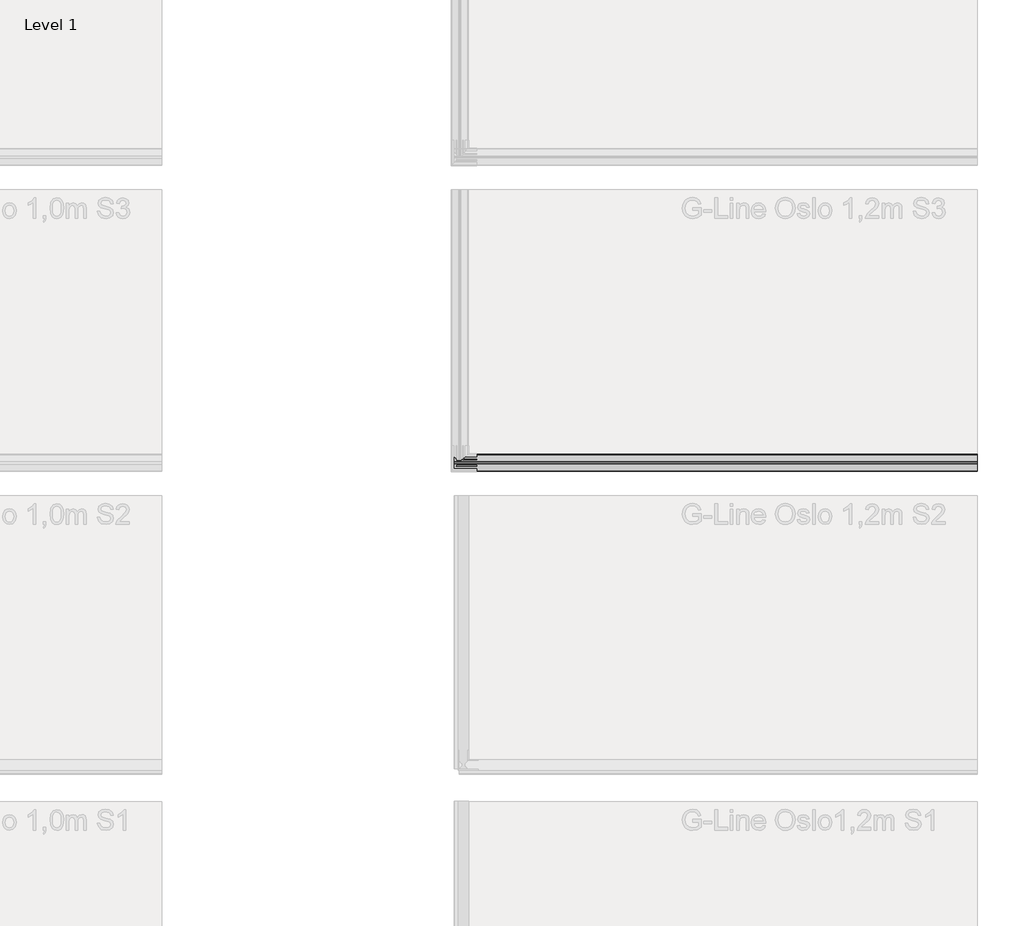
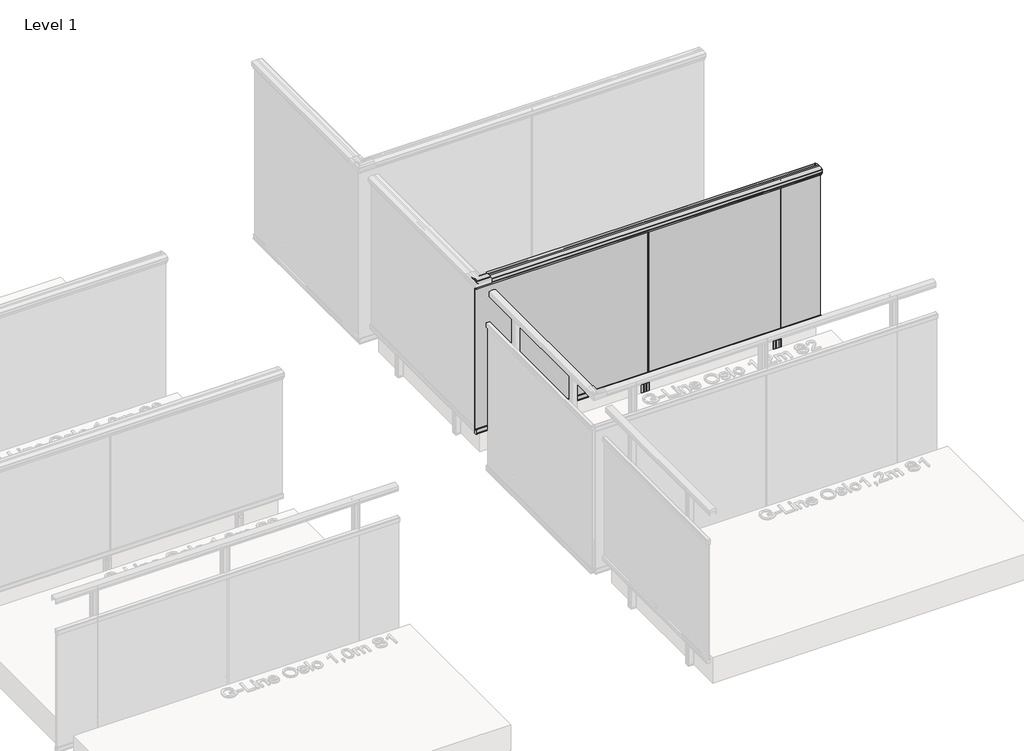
# One storey, part 35 of 66: 1 railing.
"""IFC4 building model written with IfcOpenShell, lengths in millimetres."""

from ifc_helpers import new_model, si_unit, point, frame, frame_2d, origin, origin_with_axes, place, context, project, spatial, polyline, circle_curve, trimmed, segment, composite_curve, outline, extrude, element, save

model = new_model("IFC4")

# Units and contexts
model_context = context("Model", 3, world=origin())
ifc_project = project(units=[si_unit("LENGTHUNIT", "METRE", prefix="MILLI")], contexts=[model_context])

# Site, building, storey
site = spatial("IfcSite", under=ifc_project)
building = spatial("IfcBuilding", under=site)
storey = spatial("IfcBuildingStorey", under=building, Name="Level 1", Elevation=0.0)

# Railing
placement = place(None, origin())
element("IfcRailing", 1, ObjectType="G-Line Oslo 1,2m  S3", at=placement, inside=storey, context=model_context, shape_type="SweptSolid", body=[
    extrude(outline(composite_curve([segment(polyline([(15632.289348, 1170.6825033), (15631.6638671, 1170.0570224), (15632.2491556, 1169.4717338), (15632.289348, 1165.5021186)]), True, "CONTINUOUS"), segment(trimmed(circle_curve(frame_2d((15631.789348, 1165.5021186)), 0.5), [point((15632.289348, 1165.5021186))], [point((15631.789348, 1165.0021186))], False, "CARTESIAN"), True, "CONTINUOUS"), segment(polyline([(15631.789348, 1165.0021186), (15630.789348, 1165.0021186), (15630.789348, 1179.5021186)]), True, "CONTINUOUS"), segment(trimmed(circle_curve(frame_2d((15630.289348, 1179.5021186)), 0.5), [point((15630.789348, 1179.5021186))], [point((15630.289348, 1180.0021186))], True, "CARTESIAN"), True, "CONTINUOUS"), segment(polyline([(15630.289348, 1180.0021186), (15552.289348, 1180.0021186)]), True, "CONTINUOUS"), segment(trimmed(circle_curve(frame_2d((15552.289348, 1179.5021186)), 0.5), [point((15552.289348, 1180.0021186))], [point((15551.789348, 1179.5021186))], True, "CARTESIAN"), True, "CONTINUOUS"), segment(polyline([(15551.789348, 1179.5021186), (15551.789348, 1165.0021186), (15550.789348, 1165.0021186)]), True, "CONTINUOUS"), segment(trimmed(circle_curve(frame_2d((15550.789348, 1165.5021186)), 0.5), [point((15550.789348, 1165.0021186))], [point((15550.289348, 1165.5021186))], False, "CARTESIAN"), True, "CONTINUOUS"), segment(polyline([(15550.289348, 1165.5021186), (15550.289348, 1169.2627449), (15550.9443234, 1169.9177203), (15550.3295404, 1170.5325033), (15550.289348, 1191.2139911)]), True, "CONTINUOUS"), segment(trimmed(circle_curve(frame_2d((15553.289348, 1191.2139911)), 3.0), [point((15550.289348, 1191.2139911))], [point((15552.2228567, 1194.0180233))], False, "CARTESIAN"), True, "CONTINUOUS"), segment(trimmed(circle_curve(frame_2d((15584.789348, 1108.3938053)), 91.6083133), [point((15552.2228567, 1194.0180233))], [point((15584.789348, 1200.0021186))], False, "CARTESIAN"), True, "CONTINUOUS"), segment(polyline([(15584.789348, 1200.0021186), (15597.789348, 1200.0021186)]), True, "CONTINUOUS"), segment(trimmed(circle_curve(frame_2d((15597.789348, 1108.3938053)), 91.6083133), [point((15597.789348, 1200.0021186))], [point((15630.3558394, 1194.0180233))], False, "CARTESIAN"), True, "CONTINUOUS"), segment(trimmed(circle_curve(frame_2d((15629.289348, 1191.2139911)), 3.0), [point((15630.3558394, 1194.0180233))], [point((15632.289348, 1191.2139911))], False, "CARTESIAN"), True, "CONTINUOUS"), segment(polyline([(15632.289348, 1191.2139911), (15632.289348, 1170.6825033)]), True, "CONTINUOUS")], self_intersect=False)), frame((8439.0181297, 0.0, 0.0), z_axis=(1.0, 0.0, 0.0), x_axis=(0.0, 1.0, 0.0)), (0.0, 0.0, 1.0), 2565.0366025),
    extrude(outline(composite_curve([segment(polyline([(15582.0487504, 1141.0), (15572.5287505, 1141.0), (15565.2886441, 1141.0)]), True, "CONTINUOUS"), segment(trimmed(circle_curve(frame_2d((15565.2886441, 1141.5)), 0.5), [point((15565.2886441, 1141.0))], [point((15564.7886441, 1141.5))], False, "CARTESIAN"), True, "CONTINUOUS"), segment(polyline([(15564.7886441, 1141.5), (15564.7886441, 1169.4642612), (15565.2520415, 1170.5008136), (15564.8288365, 1171.3802866), (15564.7886441, 1176.5)]), True, "CONTINUOUS"), segment(trimmed(circle_curve(frame_2d((15566.2886441, 1176.5)), 1.5), [point((15564.7886441, 1176.5))], [point((15566.2886441, 1178.0))], False, "CARTESIAN"), True, "CONTINUOUS"), segment(polyline([(15566.2886441, 1178.0), (15588.2886441, 1178.0)]), True, "CONTINUOUS"), segment(trimmed(circle_curve(frame_2d((15588.2886441, 1176.5)), 1.5), [point((15588.2886441, 1178.0))], [point((15589.7886441, 1176.5))], False, "CARTESIAN"), True, "CONTINUOUS"), segment(polyline([(15589.7886441, 1176.5), (15589.7886441, 1171.5302866), (15589.3252466, 1170.5701988), (15589.7484517, 1169.6142612), (15589.7484517, 1141.6964102)]), True, "CONTINUOUS"), segment(trimmed(circle_curve(frame_2d((15589.2886441, 1141.5)), 0.5), [point((15589.7484517, 1141.6964102))], [point((15589.2886441, 1141.0))], False, "CARTESIAN"), True, "CONTINUOUS"), segment(polyline([(15589.2886441, 1141.0), (15582.0487504, 1141.0)]), True, "CONTINUOUS")], self_intersect=False)), frame((8439.0181297, 0.0, 0.0), z_axis=(1.0, 0.0, 0.0), x_axis=(0.0, 1.0, 0.0)), (0.0, 0.0, 1.0), 2565.0366025),
    extrude(outline(polyline([(11004.0547322, 15581.6686441), (11004.0547322, 15572.9086441), (8439.0181297, 15572.9086441), (8439.0181297, 15581.6686441), (11004.0547322, 15581.6686441)])), frame((0.0, 0.0, 28.0), z_axis=(0.0, 0.0, 1.0), x_axis=(1.0, 0.0, 0.0)), (0.0, 0.0, 1.0), 1152.0),
    extrude(outline(composite_curve([segment(polyline([(15572.5285377, 37.0), (15582.0485377, 37.0), (15589.2886441, 37.0)]), True, "CONTINUOUS"), segment(trimmed(circle_curve(frame_2d((15589.2886441, 36.5)), 0.5), [point((15589.2886441, 37.0))], [point((15589.7886441, 36.5))], False, "CARTESIAN"), True, "CONTINUOUS"), segment(polyline([(15589.7886441, 36.5), (15589.7886441, 8.5357388), (15589.3252466, 7.4991864), (15589.7484517, 6.6197134), (15589.7886441, 1.5)]), True, "CONTINUOUS"), segment(trimmed(circle_curve(frame_2d((15588.2886441, 1.5)), 1.5), [point((15589.7886441, 1.5))], [point((15588.2886441, 0.0))], False, "CARTESIAN"), True, "CONTINUOUS"), segment(polyline([(15588.2886441, 0.0), (15566.2886441, 0.0)]), True, "CONTINUOUS"), segment(trimmed(circle_curve(frame_2d((15566.2886441, 1.5)), 1.5), [point((15566.2886441, 0.0))], [point((15564.7886441, 1.5))], False, "CARTESIAN"), True, "CONTINUOUS"), segment(polyline([(15564.7886441, 1.5), (15564.7886441, 6.4697134), (15565.2520415, 7.4298012), (15564.8288365, 8.3857388), (15564.8288365, 36.3035898)]), True, "CONTINUOUS"), segment(trimmed(circle_curve(frame_2d((15565.2886441, 36.5)), 0.5), [point((15564.8288365, 36.3035898))], [point((15565.2886441, 37.0))], False, "CARTESIAN"), True, "CONTINUOUS"), segment(polyline([(15565.2886441, 37.0), (15572.5285377, 37.0)]), True, "CONTINUOUS")], self_intersect=False)), frame((8439.0181297, 0.0, 0.0), z_axis=(1.0, 0.0, 0.0), x_axis=(0.0, 1.0, 0.0)), (0.0, 0.0, 1.0), 2565.0366025),
    extrude(outline(polyline([(9725.536431, 15570.2118492), (9717.536431, 15570.2118492), (9717.536431, 15578.2118492), (9725.536431, 15578.2118492), (9725.536431, 15570.2118492)])), origin_with_axes(), (0.0, 0.0, 1.0), 1141.0),
    extrude(outline(composite_curve([segment(polyline([(9720.7336439, 15630.2886441), (9721.536431, 15629.4858571), (9722.3042681, 15630.2536942), (9739.362518, 15630.2886441)]), True, "CONTINUOUS"), segment(trimmed(circle_curve(frame_2d((9739.3625179, 15628.114731)), 2.173913), [point((9739.362518, 15630.2886441))], [point((9741.536431, 15628.114731))], False, "CARTESIAN"), True, "CONTINUOUS"), segment(polyline([(9741.536431, 15628.114731), (9741.536431, 15592.4625571)]), True, "CONTINUOUS"), segment(trimmed(circle_curve(frame_2d((9739.3625179, 15592.4625571)), 2.173913), [point((9741.536431, 15592.4625571))], [point((9739.3625179, 15590.2886441))], False, "CARTESIAN"), True, "CONTINUOUS"), segment(polyline([(9739.3625179, 15590.2886441), (9722.3042681, 15590.323594), (9721.536431, 15591.0914311), (9720.7685938, 15590.323594), (9703.710344, 15590.2886441)]), True, "CONTINUOUS"), segment(trimmed(circle_curve(frame_2d((9703.710344, 15592.4625571)), 2.173913), [point((9703.710344, 15590.2886441))], [point((9701.536431, 15592.4625571))], False, "CARTESIAN"), True, "CONTINUOUS"), segment(polyline([(9701.536431, 15592.4625571), (9701.536431, 15628.114731)]), True, "CONTINUOUS"), segment(trimmed(circle_curve(frame_2d((9703.710344, 15628.114731)), 2.173913), [point((9701.536431, 15628.114731))], [point((9703.710344, 15630.2886441))], False, "CARTESIAN"), True, "CONTINUOUS"), segment(polyline([(9703.710344, 15630.2886441), (9720.7336439, 15630.2886441)]), True, "CONTINUOUS")], self_intersect=False)), frame((0.0, 0.0, -200.0), z_axis=(0.0, 0.0, 1.0), x_axis=(1.0, 0.0, 0.0)), (0.0, 0.0, 1.0), 10.0),
    extrude(outline(composite_curve([segment(trimmed(circle_curve(frame_2d((0.0, -12.0)), 12.0), [point((0.0, -23.9999999))], [point((0.0, 0.0))], False, "CARTESIAN"), True, "CONTINUOUS"), segment(trimmed(circle_curve(frame_2d((0.0, -12.0)), 12.0), [point((0.0, 0.0))], [point((0.0, -23.9999999))], False, "CARTESIAN"), True, "CONTINUOUS")], self_intersect=False)), frame((9733.5467078, 15587.2248149, -151.0), z_axis=(-0.0004029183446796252, 0.9999999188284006, 0.0), x_axis=(0.0, 0.0, 1.0)), (0.0, 0.0, 1.0), 3.0757477),
    extrude(outline(composite_curve([segment(trimmed(circle_curve(frame_2d((0.0, -12.0)), 12.0), [point((0.0, -23.9999999))], [point((0.0, 0.0))], False, "CARTESIAN"), True, "CONTINUOUS"), segment(trimmed(circle_curve(frame_2d((0.0, -12.0)), 12.0), [point((0.0, 0.0))], [point((0.0, -23.9999999))], False, "CARTESIAN"), True, "CONTINUOUS")], self_intersect=False)), frame((9733.5467078, 15587.2248149, -50.0), z_axis=(-0.0004029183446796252, 0.9999999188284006, 0.0), x_axis=(0.0, 0.0, 1.0)), (0.0, 0.0, 1.0), 3.0757477),
    extrude(outline(composite_curve([segment(polyline([(9741.536431, 15628.114731), (9741.536431, 15592.4625571)]), True, "CONTINUOUS"), segment(trimmed(circle_curve(frame_2d((9739.3625179, 15592.4625571)), 2.173913), [point((9741.536431, 15592.4625571))], [point((9739.3625179, 15590.2886441))], False, "CARTESIAN"), True, "CONTINUOUS"), segment(polyline([(9739.3625179, 15590.2886441), (9722.3042681, 15590.323594), (9721.536431, 15591.0914311), (9720.7685938, 15590.323594), (9703.710344, 15590.2886441)]), True, "CONTINUOUS"), segment(trimmed(circle_curve(frame_2d((9703.710344, 15592.4625571)), 2.173913), [point((9703.710344, 15590.2886441))], [point((9701.536431, 15592.4625571))], False, "CARTESIAN"), True, "CONTINUOUS"), segment(polyline([(9701.536431, 15592.4625571), (9701.536431, 15628.114731)]), True, "CONTINUOUS"), segment(trimmed(circle_curve(frame_2d((9703.710344, 15628.114731)), 2.173913), [point((9701.536431, 15628.114731))], [point((9703.710344, 15630.2886441))], False, "CARTESIAN"), True, "CONTINUOUS"), segment(polyline([(9703.710344, 15630.2886441), (9720.6381591, 15630.2886441), (9721.4059962, 15629.8856898), (9722.3042681, 15630.2536942), (9739.3625179, 15630.2886441)]), True, "CONTINUOUS"), segment(trimmed(circle_curve(frame_2d((9739.3625179, 15628.114731)), 2.173913), [point((9739.3625179, 15630.2886441))], [point((9741.536431, 15628.114731))], False, "CARTESIAN"), True, "CONTINUOUS")], self_intersect=False), holes=[composite_curve([segment(trimmed(circle_curve(frame_2d((9737.1886049, 15625.940818)), 0.8695652), [point((9738.0581701, 15625.940818))], [point((9737.1886049, 15626.8103832))], True, "CARTESIAN"), True, "CONTINUOUS"), segment(polyline([(9737.1886049, 15626.8103832), (9705.8842571, 15626.8103832)]), True, "CONTINUOUS"), segment(trimmed(circle_curve(frame_2d((9705.8842571, 15625.940818)), 0.8695652), [point((9705.8842571, 15626.8103832))], [point((9705.0146918, 15625.940818))], True, "CARTESIAN"), True, "CONTINUOUS"), segment(polyline([(9705.0146918, 15625.940818), (9705.0146918, 15594.6364702)]), True, "CONTINUOUS"), segment(trimmed(circle_curve(frame_2d((9705.8842571, 15594.6364702)), 0.8695652), [point((9705.0146918, 15594.6364702))], [point((9705.8842571, 15593.766905))], True, "CARTESIAN"), True, "CONTINUOUS"), segment(polyline([(9705.8842571, 15593.766905), (9737.1886049, 15593.766905)]), True, "CONTINUOUS"), segment(trimmed(circle_curve(frame_2d((9737.1886049, 15594.6364702)), 0.8695652), [point((9737.1886049, 15593.766905))], [point((9738.0581701, 15594.6364702))], True, "CARTESIAN"), True, "CONTINUOUS"), segment(polyline([(9738.0581701, 15594.6364702), (9738.0581701, 15625.940818)]), True, "CONTINUOUS")], self_intersect=False)]), frame((0.0, 0.0, -190.0), z_axis=(0.0, 0.0, 1.0), x_axis=(1.0, 0.0, 0.0)), (0.0, 0.0, 1.0), 1371.0),
    extrude(outline(composite_curve([segment(polyline([(8738.2153427, 15630.2886441), (8739.0181297, 15629.4858571), (8739.7859668, 15630.2536942), (8756.8442167, 15630.2886441)]), True, "CONTINUOUS"), segment(trimmed(circle_curve(frame_2d((8756.8442167, 15628.114731)), 2.173913), [point((8756.8442167, 15630.2886441))], [point((8759.0181297, 15628.114731))], False, "CARTESIAN"), True, "CONTINUOUS"), segment(polyline([(8759.0181297, 15628.114731), (8759.0181297, 15592.4625571)]), True, "CONTINUOUS"), segment(trimmed(circle_curve(frame_2d((8756.8442167, 15592.4625571)), 2.173913), [point((8759.0181297, 15592.4625571))], [point((8756.8442167, 15590.2886441))], False, "CARTESIAN"), True, "CONTINUOUS"), segment(polyline([(8756.8442167, 15590.2886441), (8739.7859668, 15590.323594), (8739.0181297, 15591.0914311), (8738.2502926, 15590.323594), (8721.1920427, 15590.2886441)]), True, "CONTINUOUS"), segment(trimmed(circle_curve(frame_2d((8721.1920427, 15592.4625571)), 2.173913), [point((8721.1920427, 15590.2886441))], [point((8719.0181297, 15592.4625571))], False, "CARTESIAN"), True, "CONTINUOUS"), segment(polyline([(8719.0181297, 15592.4625571), (8719.0181297, 15628.114731)]), True, "CONTINUOUS"), segment(trimmed(circle_curve(frame_2d((8721.1920427, 15628.114731)), 2.173913), [point((8719.0181297, 15628.114731))], [point((8721.1920427, 15630.2886441))], False, "CARTESIAN"), True, "CONTINUOUS"), segment(polyline([(8721.1920427, 15630.2886441), (8738.2153427, 15630.2886441)]), True, "CONTINUOUS")], self_intersect=False)), frame((0.0, 0.0, -200.0), z_axis=(0.0, 0.0, 1.0), x_axis=(1.0, 0.0, 0.0)), (0.0, 0.0, 1.0), 10.0),
    extrude(outline(composite_curve([segment(trimmed(circle_curve(frame_2d((0.0, -12.0000001)), 12.0), [point((0.0, -24.0))], [point((0.0, 0.0))], False, "CARTESIAN"), True, "CONTINUOUS"), segment(trimmed(circle_curve(frame_2d((0.0, -12.0000001)), 12.0), [point((0.0, 0.0))], [point((0.0, -24.0))], False, "CARTESIAN"), True, "CONTINUOUS")], self_intersect=False)), frame((8751.0284066, 15587.2248149, -151.0), z_axis=(-0.0004029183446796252, 0.9999999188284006, 0.0), x_axis=(0.0, 0.0, 1.0)), (0.0, 0.0, 1.0), 3.0757477),
    extrude(outline(composite_curve([segment(trimmed(circle_curve(frame_2d((0.0, -12.0000001)), 12.0), [point((0.0, -24.0))], [point((0.0, 0.0))], False, "CARTESIAN"), True, "CONTINUOUS"), segment(trimmed(circle_curve(frame_2d((0.0, -12.0000001)), 12.0), [point((0.0, 0.0))], [point((0.0, -24.0))], False, "CARTESIAN"), True, "CONTINUOUS")], self_intersect=False)), frame((8751.0284066, 15587.2248149, -50.0), z_axis=(-0.0004029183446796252, 0.9999999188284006, 0.0), x_axis=(0.0, 0.0, 1.0)), (0.0, 0.0, 1.0), 3.0757477),
    extrude(outline(composite_curve([segment(polyline([(8759.0181297, 15628.114731), (8759.0181297, 15592.4625571)]), True, "CONTINUOUS"), segment(trimmed(circle_curve(frame_2d((8756.8442167, 15592.4625571)), 2.173913), [point((8759.0181297, 15592.4625571))], [point((8756.8442167, 15590.2886441))], False, "CARTESIAN"), True, "CONTINUOUS"), segment(polyline([(8756.8442167, 15590.2886441), (8739.7859668, 15590.323594), (8739.0181297, 15591.0914311), (8738.2502926, 15590.323594), (8721.1920427, 15590.2886441)]), True, "CONTINUOUS"), segment(trimmed(circle_curve(frame_2d((8721.1920427, 15592.4625571)), 2.173913), [point((8721.1920427, 15590.2886441))], [point((8719.0181297, 15592.4625571))], False, "CARTESIAN"), True, "CONTINUOUS"), segment(polyline([(8719.0181297, 15592.4625571), (8719.0181297, 15628.114731)]), True, "CONTINUOUS"), segment(trimmed(circle_curve(frame_2d((8721.1920427, 15628.114731)), 2.173913), [point((8719.0181297, 15628.114731))], [point((8721.1920427, 15630.2886441))], False, "CARTESIAN"), True, "CONTINUOUS"), segment(polyline([(8721.1920427, 15630.2886441), (8738.1198578, 15630.2886441), (8738.8876949, 15629.8856898), (8739.7859668, 15630.2536942), (8756.8442167, 15630.2886441)]), True, "CONTINUOUS"), segment(trimmed(circle_curve(frame_2d((8756.8442167, 15628.114731)), 2.173913), [point((8756.8442167, 15630.2886441))], [point((8759.0181297, 15628.114731))], False, "CARTESIAN"), True, "CONTINUOUS")], self_intersect=False), holes=[composite_curve([segment(trimmed(circle_curve(frame_2d((8754.6703036, 15625.940818)), 0.8695652), [point((8755.5398688, 15625.940818))], [point((8754.6703036, 15626.8103832))], True, "CARTESIAN"), True, "CONTINUOUS"), segment(polyline([(8754.6703036, 15626.8103832), (8723.3659558, 15626.8103832)]), True, "CONTINUOUS"), segment(trimmed(circle_curve(frame_2d((8723.3659558, 15625.940818)), 0.8695652), [point((8723.3659558, 15626.8103832))], [point((8722.4963906, 15625.940818))], True, "CARTESIAN"), True, "CONTINUOUS"), segment(polyline([(8722.4963906, 15625.940818), (8722.4963906, 15594.6364702)]), True, "CONTINUOUS"), segment(trimmed(circle_curve(frame_2d((8723.3659558, 15594.6364702)), 0.8695652), [point((8722.4963906, 15594.6364702))], [point((8723.3659558, 15593.766905))], True, "CARTESIAN"), True, "CONTINUOUS"), segment(polyline([(8723.3659558, 15593.766905), (8754.6703036, 15593.766905)]), True, "CONTINUOUS"), segment(trimmed(circle_curve(frame_2d((8754.6703036, 15594.6364702)), 0.8695652), [point((8754.6703036, 15593.766905))], [point((8755.5398688, 15594.6364702))], True, "CARTESIAN"), True, "CONTINUOUS"), segment(polyline([(8755.5398688, 15594.6364702), (8755.5398688, 15625.940818)]), True, "CONTINUOUS")], self_intersect=False)]), frame((0.0, 0.0, -190.0), z_axis=(0.0, 0.0, 1.0), x_axis=(1.0, 0.0, 0.0)), (0.0, 0.0, 1.0), 1371.0),
    extrude(outline(composite_curve([segment(polyline([(10703.2519452, 15630.2886441), (10704.0547322, 15629.4858571), (10704.8225694, 15630.2536942), (10721.8808193, 15630.2886441)]), True, "CONTINUOUS"), segment(trimmed(circle_curve(frame_2d((10721.8808192, 15628.114731)), 2.173913), [point((10721.8808193, 15630.2886441))], [point((10724.0547322, 15628.114731))], False, "CARTESIAN"), True, "CONTINUOUS"), segment(polyline([(10724.0547322, 15628.114731), (10724.0547322, 15592.4625571)]), True, "CONTINUOUS"), segment(trimmed(circle_curve(frame_2d((10721.8808192, 15592.4625571)), 2.173913), [point((10724.0547322, 15592.4625571))], [point((10721.8808192, 15590.2886441))], False, "CARTESIAN"), True, "CONTINUOUS"), segment(polyline([(10721.8808192, 15590.2886441), (10704.8225694, 15590.323594), (10704.0547322, 15591.0914311), (10703.2868951, 15590.323594), (10686.2286453, 15590.2886441)]), True, "CONTINUOUS"), segment(trimmed(circle_curve(frame_2d((10686.2286453, 15592.4625571)), 2.173913), [point((10686.2286453, 15590.2886441))], [point((10684.0547322, 15592.4625571))], False, "CARTESIAN"), True, "CONTINUOUS"), segment(polyline([(10684.0547322, 15592.4625571), (10684.0547322, 15628.114731)]), True, "CONTINUOUS"), segment(trimmed(circle_curve(frame_2d((10686.2286453, 15628.114731)), 2.173913), [point((10684.0547322, 15628.114731))], [point((10686.2286453, 15630.2886441))], False, "CARTESIAN"), True, "CONTINUOUS"), segment(polyline([(10686.2286453, 15630.2886441), (10703.2519452, 15630.2886441)]), True, "CONTINUOUS")], self_intersect=False)), frame((0.0, 0.0, -200.0), z_axis=(0.0, 0.0, 1.0), x_axis=(1.0, 0.0, 0.0)), (0.0, 0.0, 1.0), 10.0),
    extrude(outline(composite_curve([segment(trimmed(circle_curve(frame_2d((0.0, -12.0)), 12.0), [point((0.0, -23.9999999))], [point((0.0, 0.0))], False, "CARTESIAN"), True, "CONTINUOUS"), segment(trimmed(circle_curve(frame_2d((0.0, -12.0)), 12.0), [point((0.0, 0.0))], [point((0.0, -23.9999999))], False, "CARTESIAN"), True, "CONTINUOUS")], self_intersect=False)), frame((10716.0650091, 15587.2248149, -151.0), z_axis=(-0.0004029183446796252, 0.9999999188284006, 0.0), x_axis=(0.0, 0.0, 1.0)), (0.0, 0.0, 1.0), 3.0757477),
    extrude(outline(composite_curve([segment(trimmed(circle_curve(frame_2d((0.0, -12.0)), 12.0), [point((0.0, -23.9999999))], [point((0.0, 0.0))], False, "CARTESIAN"), True, "CONTINUOUS"), segment(trimmed(circle_curve(frame_2d((0.0, -12.0)), 12.0), [point((0.0, 0.0))], [point((0.0, -23.9999999))], False, "CARTESIAN"), True, "CONTINUOUS")], self_intersect=False)), frame((10716.0650091, 15587.2248149, -50.0), z_axis=(-0.0004029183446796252, 0.9999999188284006, 0.0), x_axis=(0.0, 0.0, 1.0)), (0.0, 0.0, 1.0), 3.0757477),
    extrude(outline(composite_curve([segment(polyline([(10724.0547322, 15628.114731), (10724.0547322, 15592.4625571)]), True, "CONTINUOUS"), segment(trimmed(circle_curve(frame_2d((10721.8808192, 15592.4625571)), 2.173913), [point((10724.0547322, 15592.4625571))], [point((10721.8808192, 15590.2886441))], False, "CARTESIAN"), True, "CONTINUOUS"), segment(polyline([(10721.8808192, 15590.2886441), (10704.8225694, 15590.323594), (10704.0547322, 15591.0914311), (10703.2868951, 15590.323594), (10686.2286453, 15590.2886441)]), True, "CONTINUOUS"), segment(trimmed(circle_curve(frame_2d((10686.2286453, 15592.4625571)), 2.173913), [point((10686.2286453, 15590.2886441))], [point((10684.0547322, 15592.4625571))], False, "CARTESIAN"), True, "CONTINUOUS"), segment(polyline([(10684.0547322, 15592.4625571), (10684.0547322, 15628.114731)]), True, "CONTINUOUS"), segment(trimmed(circle_curve(frame_2d((10686.2286453, 15628.114731)), 2.173913), [point((10684.0547322, 15628.114731))], [point((10686.2286453, 15630.2886441))], False, "CARTESIAN"), True, "CONTINUOUS"), segment(polyline([(10686.2286453, 15630.2886441), (10703.1564603, 15630.2886441), (10703.9242975, 15629.8856898), (10704.8225694, 15630.2536942), (10721.8808192, 15630.2886441)]), True, "CONTINUOUS"), segment(trimmed(circle_curve(frame_2d((10721.8808192, 15628.114731)), 2.173913), [point((10721.8808192, 15630.2886441))], [point((10724.0547322, 15628.114731))], False, "CARTESIAN"), True, "CONTINUOUS")], self_intersect=False), holes=[composite_curve([segment(trimmed(circle_curve(frame_2d((10719.7069062, 15625.940818)), 0.8695652), [point((10720.5764714, 15625.940818))], [point((10719.7069062, 15626.8103832))], True, "CARTESIAN"), True, "CONTINUOUS"), segment(polyline([(10719.7069062, 15626.8103832), (10688.4025583, 15626.8103832)]), True, "CONTINUOUS"), segment(trimmed(circle_curve(frame_2d((10688.4025583, 15625.940818)), 0.8695652), [point((10688.4025583, 15626.8103832))], [point((10687.5329931, 15625.940818))], True, "CARTESIAN"), True, "CONTINUOUS"), segment(polyline([(10687.5329931, 15625.940818), (10687.5329931, 15594.6364702)]), True, "CONTINUOUS"), segment(trimmed(circle_curve(frame_2d((10688.4025583, 15594.6364702)), 0.8695652), [point((10687.5329931, 15594.6364702))], [point((10688.4025583, 15593.766905))], True, "CARTESIAN"), True, "CONTINUOUS"), segment(polyline([(10688.4025583, 15593.766905), (10719.7069062, 15593.766905)]), True, "CONTINUOUS"), segment(trimmed(circle_curve(frame_2d((10719.7069062, 15594.6364702)), 0.8695652), [point((10719.7069062, 15593.766905))], [point((10720.5764714, 15594.6364702))], True, "CARTESIAN"), True, "CONTINUOUS"), segment(polyline([(10720.5764714, 15594.6364702), (10720.5764714, 15625.940818)]), True, "CONTINUOUS")], self_intersect=False)]), frame((0.0, 0.0, -190.0), z_axis=(0.0, 0.0, 1.0), x_axis=(1.0, 0.0, 0.0)), (0.0, 0.0, 1.0), 1371.0),
])

save(model, "model.ifc")
